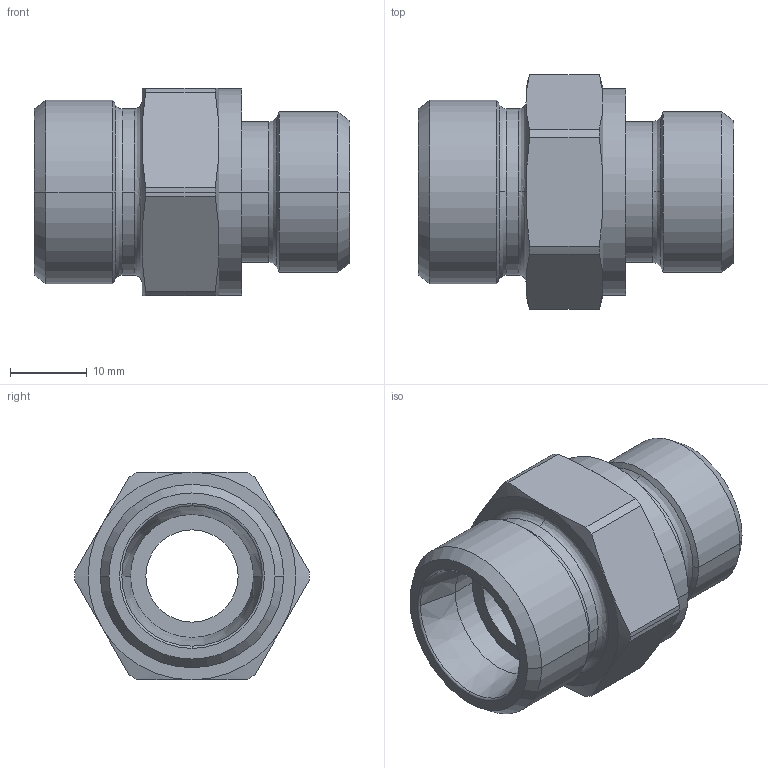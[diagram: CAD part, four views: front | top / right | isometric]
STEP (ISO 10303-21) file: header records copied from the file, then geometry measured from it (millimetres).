
FILE_DESCRIPTION((''),'2;1');
FILE_NAME('100519.stp','2007-10-30T14:15:49',(''),(''),'AutoCAD STEP 2000i','AutoCAD 2000i',', , ');
FILE_SCHEMA(('CONFIG_CONTROL_DESIGN'));
Length unit declared in the file: millimetre
Products named in the file (2): 100519.0; CHIAVE SMUSSATA#0
Assembly tree (1 placements, depth 2):
  100519.0
    CHIAVE SMUSSATA#0
Bounding box: 41 x 30.5 x 27 mm (x, y, z)
Volume: 12356 mm3; surface area: 5898.6 mm2
Topology: 1 solids, 1 shells, 75 faces, 185 edges, 117 vertices
Faces by surface type: cylinder 24, cone 24, plane 13, bspline 12, torus 2
Entity records: 2835 total; most frequent: CARTESIAN_POINT 955, DIRECTION 410, ORIENTED_EDGE 370, EDGE_CURVE 185, AXIS2_PLACEMENT_3D 184, CIRCLE 119, VERTEX_POINT 117, EDGE_LOOP 82
